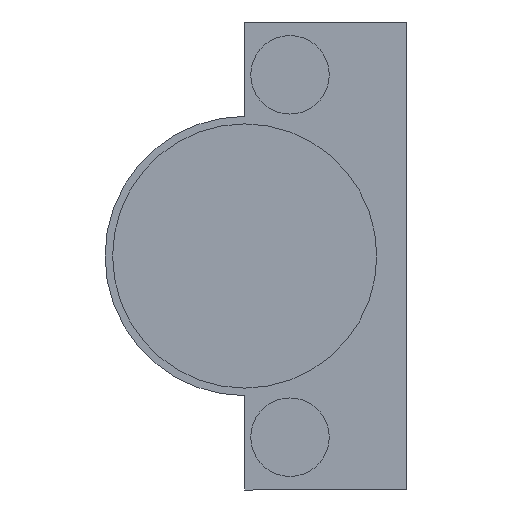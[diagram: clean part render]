
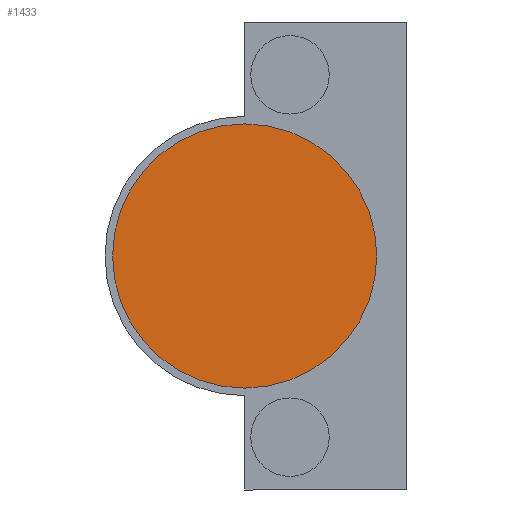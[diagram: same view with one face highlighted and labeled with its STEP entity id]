
A CAD part, front view. The second image highlights one B-rep face of the part: STEP entity #1433.
In plain terms, the highlighted planar face has unit normal (0, -1, 0).
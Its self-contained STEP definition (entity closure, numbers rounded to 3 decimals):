
#67 = EDGE_CURVE ( 'NONE', #475, #470, #1298, .T. ) ;
#278 = ORIENTED_EDGE ( 'NONE', *, *, #1492, .T. ) ;
#339 = EDGE_LOOP ( 'NONE', ( #380, #278 ) ) ;
#380 = ORIENTED_EDGE ( 'NONE', *, *, #67, .T. ) ;
#470 = VERTEX_POINT ( 'NONE', #719 ) ;
#475 = VERTEX_POINT ( 'NONE', #724 ) ;
#665 = CARTESIAN_POINT ( 'NONE',  ( 12., -12.6, 0. ) ) ;
#672 = DIRECTION ( 'NONE',  ( 0., -1., 0. ) ) ;
#673 = DIRECTION ( 'NONE',  ( 1., 0., 0. ) ) ;
#719 = CARTESIAN_POINT ( 'NONE',  ( 29.5, -12.6, 0. ) ) ;
#724 = CARTESIAN_POINT ( 'NONE',  ( -5.5, -12.6, 0. ) ) ;
#901 = CARTESIAN_POINT ( 'NONE',  ( 12., -12.6, 0. ) ) ;
#902 = PLANE ( 'NONE',  #1572 ) ;
#904 = DIRECTION ( 'NONE',  ( 0., -1., 0. ) ) ;
#905 = DIRECTION ( 'NONE',  ( 1., 0., 0. ) ) ;
#1075 = CARTESIAN_POINT ( 'NONE',  ( 12., -12.6, 0. ) ) ;
#1084 = DIRECTION ( 'NONE',  ( 0., -1., 0. ) ) ;
#1085 = DIRECTION ( 'NONE',  ( 1., 0., 0. ) ) ;
#1227 = FACE_OUTER_BOUND ( 'NONE', #339, .T. ) ;
#1298 = CIRCLE ( 'NONE', #1531, 17.5 ) ;
#1433 = ADVANCED_FACE ( 'NONE', ( #1227 ), #902, .T. ) ;
#1492 = EDGE_CURVE ( 'NONE', #470, #475, #1657, .T. ) ;
#1531 = AXIS2_PLACEMENT_3D ( 'NONE', #665, #672, #673 ) ;
#1572 = AXIS2_PLACEMENT_3D ( 'NONE', #901, #904, #905 ) ;
#1605 = AXIS2_PLACEMENT_3D ( 'NONE', #1075, #1084, #1085 ) ;
#1657 = CIRCLE ( 'NONE', #1605, 17.5 ) ;
